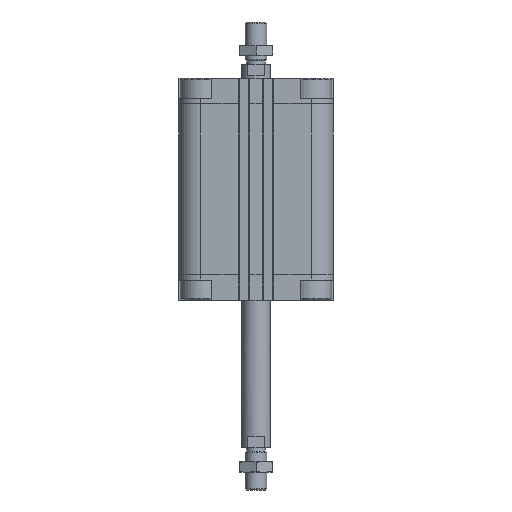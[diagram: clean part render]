
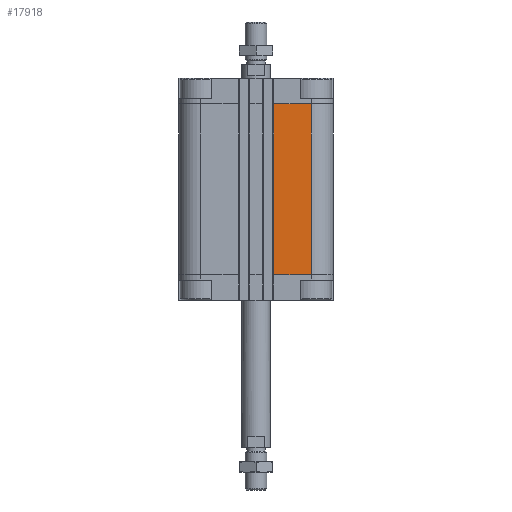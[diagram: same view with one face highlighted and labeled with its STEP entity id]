
A CAD part, front view. The second image highlights one B-rep face of the part: STEP entity #17918.
In plain terms, the highlighted planar face has unit normal (0, -1, 0).
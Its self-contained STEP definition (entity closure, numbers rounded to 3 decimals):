
#449 = LINE ( 'NONE', #20085, #20164 ) ;
#1097 = DIRECTION ( 'NONE',  ( -1., 0., 0. ) ) ;
#1101 = CARTESIAN_POINT ( 'NONE',  ( 31., -43.5, -110.5 ) ) ;
#2261 = DIRECTION ( 'NONE',  ( 1., 0., 0. ) ) ;
#2476 = VECTOR ( 'NONE', #7381, 1000. ) ;
#2687 = CARTESIAN_POINT ( 'NONE',  ( 10.05, -43.5, -110.5 ) ) ;
#2962 = EDGE_CURVE ( 'NONE', #7834, #8289, #15546, .T. ) ;
#3150 = PLANE ( 'NONE',  #20812 ) ;
#6582 = ORIENTED_EDGE ( 'NONE', *, *, #10933, .T. ) ;
#7185 = LINE ( 'NONE', #2687, #20036 ) ;
#7381 = DIRECTION ( 'NONE',  ( 0., 0., 1. ) ) ;
#7834 = VERTEX_POINT ( 'NONE', #1101 ) ;
#8289 = VERTEX_POINT ( 'NONE', #11271 ) ;
#8806 = CARTESIAN_POINT ( 'NONE',  ( 10.05, -43.5, -110.5 ) ) ;
#10933 = EDGE_CURVE ( 'NONE', #20124, #7834, #17181, .T. ) ;
#11271 = CARTESIAN_POINT ( 'NONE',  ( 31., -43.5, -14.5 ) ) ;
#11534 = VERTEX_POINT ( 'NONE', #17803 ) ;
#12504 = ORIENTED_EDGE ( 'NONE', *, *, #14676, .F. ) ;
#13969 = DIRECTION ( 'NONE',  ( 1., 0., 0. ) ) ;
#14676 = EDGE_CURVE ( 'NONE', #20124, #11534, #7185, .T. ) ;
#15546 = LINE ( 'NONE', #17466, #2476 ) ;
#15762 = DIRECTION ( 'NONE',  ( 0., 0., 1. ) ) ;
#16218 = CARTESIAN_POINT ( 'NONE',  ( 10.05, -43.5, -110.5 ) ) ;
#17181 = LINE ( 'NONE', #8806, #20271 ) ;
#17408 = FACE_OUTER_BOUND ( 'NONE', #18389, .T. ) ;
#17466 = CARTESIAN_POINT ( 'NONE',  ( 31., -43.5, -110.5 ) ) ;
#17803 = CARTESIAN_POINT ( 'NONE',  ( 10.05, -43.5, -14.5 ) ) ;
#17918 = ADVANCED_FACE ( 'NONE', ( #17408 ), #3150, .T. ) ;
#18389 = EDGE_LOOP ( 'NONE', ( #20649, #12504, #6582, #21152 ) ) ;
#19130 = CARTESIAN_POINT ( 'NONE',  ( 10.05, -43.5, -110.5 ) ) ;
#19234 = DIRECTION ( 'NONE',  ( 0., -1., 0. ) ) ;
#19788 = EDGE_CURVE ( 'NONE', #11534, #8289, #449, .T. ) ;
#20036 = VECTOR ( 'NONE', #15762, 1000. ) ;
#20085 = CARTESIAN_POINT ( 'NONE',  ( 10.05, -43.5, -14.5 ) ) ;
#20124 = VERTEX_POINT ( 'NONE', #16218 ) ;
#20164 = VECTOR ( 'NONE', #2261, 1000. ) ;
#20271 = VECTOR ( 'NONE', #13969, 1000. ) ;
#20649 = ORIENTED_EDGE ( 'NONE', *, *, #19788, .F. ) ;
#20812 = AXIS2_PLACEMENT_3D ( 'NONE', #19130, #19234, #1097 ) ;
#21152 = ORIENTED_EDGE ( 'NONE', *, *, #2962, .T. ) ;
